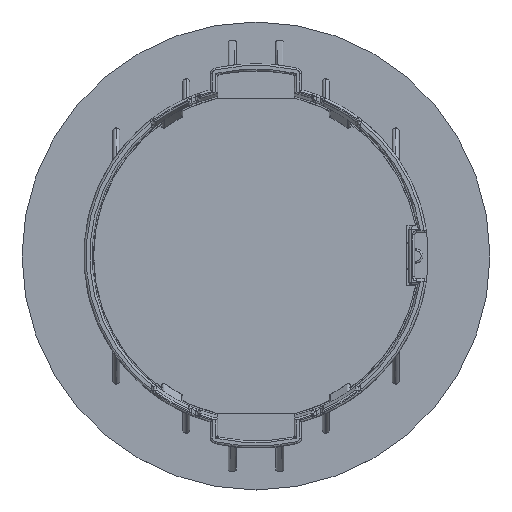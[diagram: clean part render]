
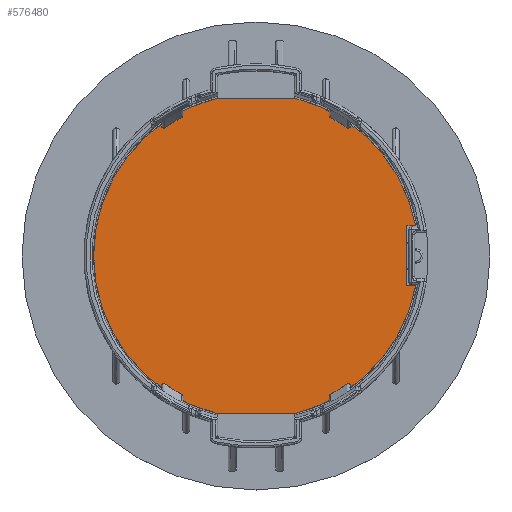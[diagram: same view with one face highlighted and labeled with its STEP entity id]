
A CAD part, top view. The second image highlights one B-rep face of the part: STEP entity #576480.
In plain terms, the highlighted planar face has unit normal (0, 0, 1).
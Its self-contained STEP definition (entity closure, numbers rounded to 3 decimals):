
#574760=CARTESIAN_POINT('',(48.85,31.321,
11.897));
#574770=VERTEX_POINT('',#574760);
#574800=CARTESIAN_POINT('',(42.993,53.821,
11.897));
#574810=DIRECTION('',(0.,0.,1.));
#574820=DIRECTION('',(0.,-1.,0.));
#574830=AXIS2_PLACEMENT_3D('',#574800,#574810,#574820);
#574840=CIRCLE('',#574830,23.25);
#574850=CARTESIAN_POINT('',(65.842,49.521,
11.897));
#574860=VERTEX_POINT('',#574850);
#574870=EDGE_CURVE('',#574770,#574860,#574840,.T.);
#575100=CARTESIAN_POINT('',(37.135,31.321,
11.897));
#575110=VERTEX_POINT('',#575100);
#575140=CARTESIAN_POINT('',(43.001,31.321,
11.897));
#575150=DIRECTION('',(-1.,0.,0.));
#575160=VECTOR('',#575150,1.);
#575170=LINE('',#575140,#575160);
#575180=EDGE_CURVE('',#574770,#575110,#575170,.T.);
#575330=CARTESIAN_POINT('',(37.135,76.321,
11.897));
#575340=VERTEX_POINT('',#575330);
#575370=CARTESIAN_POINT('',(42.993,53.821,
11.897));
#575380=DIRECTION('',(0.,0.,1.));
#575390=DIRECTION('',(0.,-1.,0.));
#575400=AXIS2_PLACEMENT_3D('',#575370,#575380,#575390);
#575410=CIRCLE('',#575400,23.25);
#575420=EDGE_CURVE('',#575340,#575110,#575410,.T.);
#575570=CARTESIAN_POINT('',(48.85,76.321,
11.897));
#575580=VERTEX_POINT('',#575570);
#575610=CARTESIAN_POINT('',(43.001,76.321,
11.897));
#575620=DIRECTION('',(1.,0.,0.));
#575630=VECTOR('',#575620,1.);
#575640=LINE('',#575610,#575630);
#575650=EDGE_CURVE('',#575340,#575580,#575640,.T.);
#575780=CARTESIAN_POINT('',(65.842,58.121,
11.897));
#575790=VERTEX_POINT('',#575780);
#575820=CARTESIAN_POINT('',(42.993,53.821,
11.897));
#575830=DIRECTION('',(0.,0.,1.));
#575840=DIRECTION('',(0.,-1.,0.));
#575850=AXIS2_PLACEMENT_3D('',#575820,#575830,#575840);
#575860=CIRCLE('',#575850,23.25);
#575870=EDGE_CURVE('',#575790,#575580,#575860,.T.);
#576050=CARTESIAN_POINT('',(64.593,58.121,
11.897));
#576060=VERTEX_POINT('',#576050);
#576090=CARTESIAN_POINT('',(43.001,58.121,
11.897));
#576100=DIRECTION('',(1.,0.,0.));
#576110=VECTOR('',#576100,1.);
#576120=LINE('',#576090,#576110);
#576130=EDGE_CURVE('',#576060,#575790,#576120,.T.);
#576210=CARTESIAN_POINT('',(42.993,80.821,
11.897));
#576220=DIRECTION('',(0.,0.,1.));
#576230=DIRECTION('',(-1.,0.,0.));
#576240=AXIS2_PLACEMENT_3D('',#576210,#576220,#576230);
#576250=PLANE('',#576240);
#576260=ORIENTED_EDGE('',*,*,#574870,.T.);
#576270=ORIENTED_EDGE('',*,*,#575180,.F.);
#576280=ORIENTED_EDGE('',*,*,#575420,.T.);
#576290=ORIENTED_EDGE('',*,*,#575650,.F.);
#576300=ORIENTED_EDGE('',*,*,#575870,.T.);
#576310=ORIENTED_EDGE('',*,*,#576130,.T.);
#576320=CARTESIAN_POINT('',(64.593,167.126,
11.897));
#576330=DIRECTION('',(0.,1.,0.));
#576340=VECTOR('',#576330,1.);
#576350=LINE('',#576320,#576340);
#576360=CARTESIAN_POINT('',(64.593,49.521,
11.897));
#576370=VERTEX_POINT('',#576360);
#576380=EDGE_CURVE('',#576370,#576060,#576350,.T.);
#576390=ORIENTED_EDGE('',*,*,#576380,.T.);
#576400=CARTESIAN_POINT('',(43.001,49.521,
11.897));
#576410=DIRECTION('',(-1.,0.,0.));
#576420=VECTOR('',#576410,1.);
#576430=LINE('',#576400,#576420);
#576440=EDGE_CURVE('',#574860,#576370,#576430,.T.);
#576450=ORIENTED_EDGE('',*,*,#576440,.T.);
#576460=EDGE_LOOP('',(#576450,#576390,#576310,#576300,#576290,#576280,
#576270,#576260));
#576470=FACE_OUTER_BOUND('',#576460,.T.);
#576480=ADVANCED_FACE('',(#576470),#576250,.T.);
